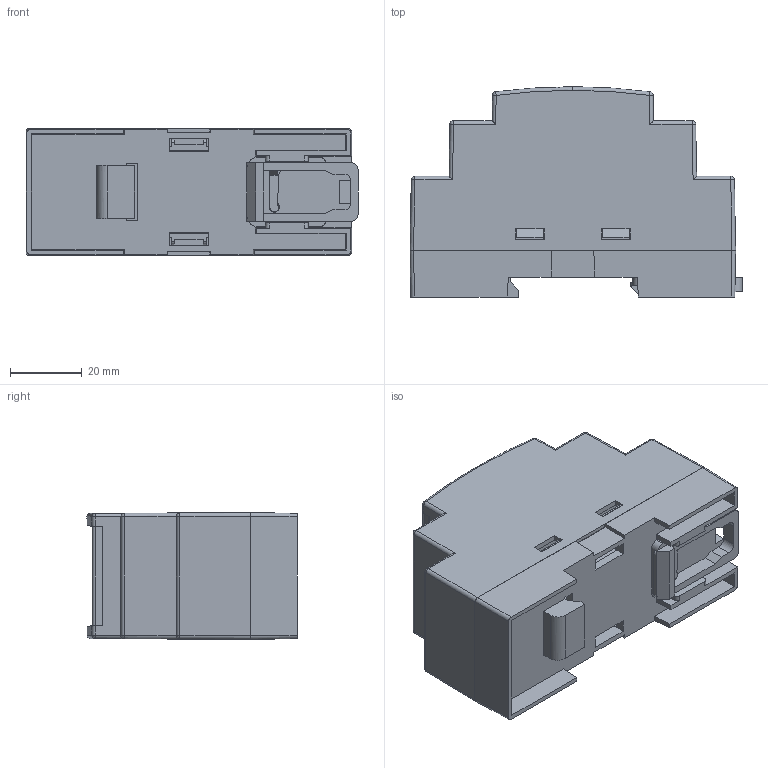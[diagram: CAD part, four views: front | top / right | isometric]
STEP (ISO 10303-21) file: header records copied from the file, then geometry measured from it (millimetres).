
FILE_DESCRIPTION (( 'STEP AP203' ), '1' );
FILE_NAME ('PT202-A.STEP', '2015-05-18T08:18:05', ( 'admin' ), ( 'Hewlett-Packard Company' ), 'SwSTEP 2.0', 'SolidWorks 2014', '' );
FILE_SCHEMA (( 'CONFIG_CONTROL_DESIGN' ));
Length unit declared in the file: millimetre
Products named in the file (5): PT202-A
Assembly tree (4 placements, depth 2):
  PT202-A
    PT202-A
    PT202-A
    PT202-A
    PT202-A
Bounding box: 92.38 x 58.5 x 35.3 mm (x, y, z)
Volume: 34799 mm3; surface area: 41369.6 mm2
Topology: 4 solids, 4 shells, 443 faces, 1247 edges, 808 vertices
Faces by surface type: plane 329, cylinder 77, cone 14, sphere 12, bspline 11
Entity records: 15100 total; most frequent: CARTESIAN_POINT 3448, ORIENTED_EDGE 2478, DIRECTION 2098, EDGE_CURVE 1239, LINE 1002, VECTOR 1002, VERTEX_POINT 808, AXIS2_PLACEMENT_3D 548
